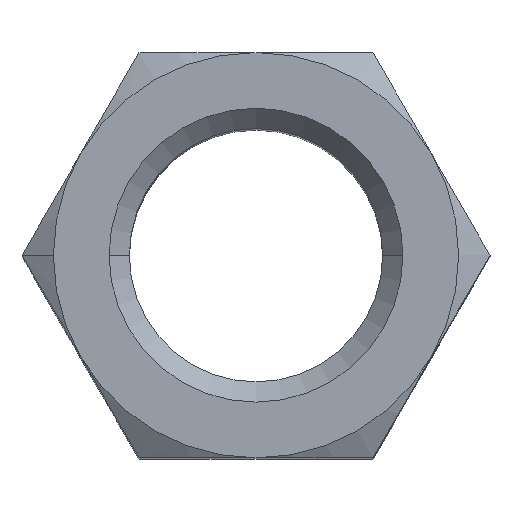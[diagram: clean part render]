
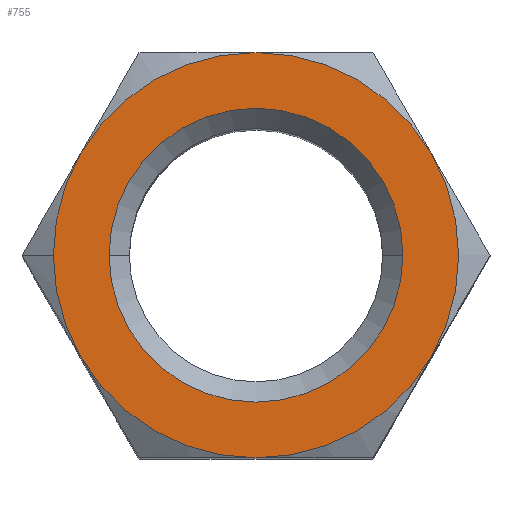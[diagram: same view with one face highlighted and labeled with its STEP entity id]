
A CAD part, top view. The second image highlights one B-rep face of the part: STEP entity #755.
In plain terms, the highlighted planar face has unit normal (0, 0, 1).
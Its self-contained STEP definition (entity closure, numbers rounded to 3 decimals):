
#24 = DIRECTION ( 'NONE',  ( -1., 0., 0. ) ) ;
#26 = CARTESIAN_POINT ( 'NONE',  ( 0., 0., 9. ) ) ;
#31 = DIRECTION ( 'NONE',  ( -1., 0., 0. ) ) ;
#32 = DIRECTION ( 'NONE',  ( -1., 0., 0. ) ) ;
#43 = VERTEX_POINT ( 'NONE', #281 ) ;
#44 = CARTESIAN_POINT ( 'NONE',  ( -4., 0., 9. ) ) ;
#57 = CIRCLE ( 'NONE', #670, 4. ) ;
#85 = DIRECTION ( 'NONE',  ( -1., 0., 0. ) ) ;
#87 = FACE_OUTER_BOUND ( 'NONE', #638, .T. ) ;
#102 = AXIS2_PLACEMENT_3D ( 'NONE', #26, #224, #32 ) ;
#106 = ORIENTED_EDGE ( 'NONE', *, *, #338, .T. ) ;
#112 = CARTESIAN_POINT ( 'NONE',  ( 3.464, 2., 9. ) ) ;
#116 = EDGE_CURVE ( 'NONE', #853, #419, #778, .T. ) ;
#133 = CIRCLE ( 'NONE', #834, 2.9 ) ;
#134 = CARTESIAN_POINT ( 'NONE',  ( 0., 0., 9. ) ) ;
#156 = CARTESIAN_POINT ( 'NONE',  ( 0., 0., 9. ) ) ;
#172 = CARTESIAN_POINT ( 'NONE',  ( -3.464, 2., 9. ) ) ;
#193 = VERTEX_POINT ( 'NONE', #471 ) ;
#202 = ORIENTED_EDGE ( 'NONE', *, *, #651, .T. ) ;
#206 = CARTESIAN_POINT ( 'NONE',  ( 3.464, -2., 9. ) ) ;
#208 = DIRECTION ( 'NONE',  ( -1., 0., 0. ) ) ;
#211 = CARTESIAN_POINT ( 'NONE',  ( 0., 0., 9. ) ) ;
#221 = EDGE_CURVE ( 'NONE', #853, #752, #482, .T. ) ;
#224 = DIRECTION ( 'NONE',  ( 0., 0., 1. ) ) ;
#274 = AXIS2_PLACEMENT_3D ( 'NONE', #687, #762, #820 ) ;
#281 = CARTESIAN_POINT ( 'NONE',  ( -2.9, 0., 9. ) ) ;
#291 = DIRECTION ( 'NONE',  ( -1., 0., 0. ) ) ;
#296 = FACE_BOUND ( 'NONE', #304, .T. ) ;
#304 = EDGE_LOOP ( 'NONE', ( #106, #359 ) ) ;
#309 = ORIENTED_EDGE ( 'NONE', *, *, #221, .F. ) ;
#311 = VERTEX_POINT ( 'NONE', #112 ) ;
#318 = AXIS2_PLACEMENT_3D ( 'NONE', #134, #416, #291 ) ;
#320 = ORIENTED_EDGE ( 'NONE', *, *, #116, .T. ) ;
#338 = EDGE_CURVE ( 'NONE', #193, #43, #613, .T. ) ;
#352 = CARTESIAN_POINT ( 'NONE',  ( 0., 0., 9. ) ) ;
#359 = ORIENTED_EDGE ( 'NONE', *, *, #807, .T. ) ;
#361 = PLANE ( 'NONE',  #614 ) ;
#373 = EDGE_CURVE ( 'NONE', #732, #311, #756, .T. ) ;
#375 = AXIS2_PLACEMENT_3D ( 'NONE', #352, #561, #85 ) ;
#382 = DIRECTION ( 'NONE',  ( 0., 0., -1. ) ) ;
#412 = AXIS2_PLACEMENT_3D ( 'NONE', #156, #424, #31 ) ;
#416 = DIRECTION ( 'NONE',  ( 0., 0., 1. ) ) ;
#419 = VERTEX_POINT ( 'NONE', #44 ) ;
#423 = DIRECTION ( 'NONE',  ( -1., 0., 0. ) ) ;
#424 = DIRECTION ( 'NONE',  ( 0., 0., 1. ) ) ;
#429 = CIRCLE ( 'NONE', #274, 4. ) ;
#439 = VERTEX_POINT ( 'NONE', #722 ) ;
#443 = CIRCLE ( 'NONE', #102, 4. ) ;
#462 = DIRECTION ( 'NONE',  ( 0., 0., 1. ) ) ;
#471 = CARTESIAN_POINT ( 'NONE',  ( 2.9, 0., 9. ) ) ;
#482 = CIRCLE ( 'NONE', #375, 4. ) ;
#498 = AXIS2_PLACEMENT_3D ( 'NONE', #631, #382, #24 ) ;
#504 = ORIENTED_EDGE ( 'NONE', *, *, #582, .T. ) ;
#523 = CARTESIAN_POINT ( 'NONE',  ( 0., 0., 9. ) ) ;
#540 = CARTESIAN_POINT ( 'NONE',  ( 0., -4., 9. ) ) ;
#561 = DIRECTION ( 'NONE',  ( 0., 0., -1. ) ) ;
#562 = DIRECTION ( 'NONE',  ( 1., 0., 0. ) ) ;
#573 = CIRCLE ( 'NONE', #318, 4. ) ;
#580 = ORIENTED_EDGE ( 'NONE', *, *, #683, .T. ) ;
#582 = EDGE_CURVE ( 'NONE', #419, #439, #57, .T. ) ;
#613 = CIRCLE ( 'NONE', #498, 2.9 ) ;
#614 = AXIS2_PLACEMENT_3D ( 'NONE', #633, #771, #562 ) ;
#631 = CARTESIAN_POINT ( 'NONE',  ( 0., 0., 9. ) ) ;
#633 = CARTESIAN_POINT ( 'NONE',  ( 0., 0., 9. ) ) ;
#638 = EDGE_LOOP ( 'NONE', ( #320, #504, #202, #580, #860, #661, #309 ) ) ;
#651 = EDGE_CURVE ( 'NONE', #439, #716, #429, .T. ) ;
#661 = ORIENTED_EDGE ( 'NONE', *, *, #742, .T. ) ;
#663 = DIRECTION ( 'NONE',  ( -1., 0., 0. ) ) ;
#670 = AXIS2_PLACEMENT_3D ( 'NONE', #523, #462, #663 ) ;
#683 = EDGE_CURVE ( 'NONE', #716, #732, #573, .T. ) ;
#687 = CARTESIAN_POINT ( 'NONE',  ( 0., 0., 9. ) ) ;
#697 = CARTESIAN_POINT ( 'NONE',  ( 0., 4., 9. ) ) ;
#713 = DIRECTION ( 'NONE',  ( 0., 0., -1. ) ) ;
#716 = VERTEX_POINT ( 'NONE', #540 ) ;
#722 = CARTESIAN_POINT ( 'NONE',  ( -3.464, -2., 9. ) ) ;
#732 = VERTEX_POINT ( 'NONE', #206 ) ;
#733 = CARTESIAN_POINT ( 'NONE',  ( 0., 0., 9. ) ) ;
#742 = EDGE_CURVE ( 'NONE', #311, #752, #443, .T. ) ;
#749 = AXIS2_PLACEMENT_3D ( 'NONE', #733, #808, #208 ) ;
#752 = VERTEX_POINT ( 'NONE', #697 ) ;
#755 = ADVANCED_FACE ( 'NONE', ( #296, #87 ), #361, .F. ) ;
#756 = CIRCLE ( 'NONE', #412, 4. ) ;
#762 = DIRECTION ( 'NONE',  ( 0., 0., 1. ) ) ;
#771 = DIRECTION ( 'NONE',  ( 0., 0., -1. ) ) ;
#778 = CIRCLE ( 'NONE', #749, 4. ) ;
#807 = EDGE_CURVE ( 'NONE', #43, #193, #133, .T. ) ;
#808 = DIRECTION ( 'NONE',  ( 0., 0., 1. ) ) ;
#820 = DIRECTION ( 'NONE',  ( -1., 0., 0. ) ) ;
#834 = AXIS2_PLACEMENT_3D ( 'NONE', #211, #713, #423 ) ;
#853 = VERTEX_POINT ( 'NONE', #172 ) ;
#860 = ORIENTED_EDGE ( 'NONE', *, *, #373, .T. ) ;
